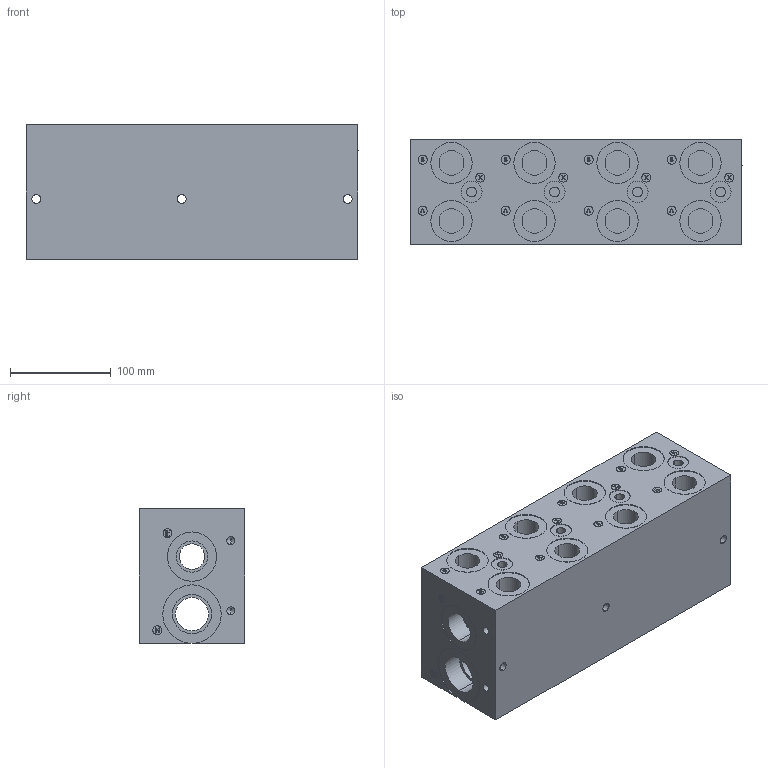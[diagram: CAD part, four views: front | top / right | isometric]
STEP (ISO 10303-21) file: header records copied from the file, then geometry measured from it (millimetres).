
FILE_DESCRIPTION (( 'STEP AP203' ), '1' );
FILE_NAME ('BM-AHP05HS3-04-1_Z.STEP', '2015-01-06T16:19:56', ( '' ), ( '' ), 'SwSTEP 2.0', 'SolidWorks 2014', '' );
FILE_SCHEMA (( 'CONFIG_CONTROL_DESIGN' ));
Length unit declared in the file: inch
Products named in the file (1): BM-AHP05HS3-04-1_Z
Bounding box: 330.2 x 104.65 x 133.35 mm (x, y, z)
Volume: 3991125.2 mm3; surface area: 285190.9 mm2
Topology: 1 solids, 1 shells, 766 faces, 1867 edges, 1175 vertices
Faces by surface type: plane 363, cylinder 257, cone 90, bspline 56
Entity records: 25358 total; most frequent: CARTESIAN_POINT 7607, DIRECTION 3585, ORIENTED_EDGE 3570, EDGE_CURVE 1785, AXIS2_PLACEMENT_3D 1225, VERTEX_POINT 1175, LINE 1135, VECTOR 1135
